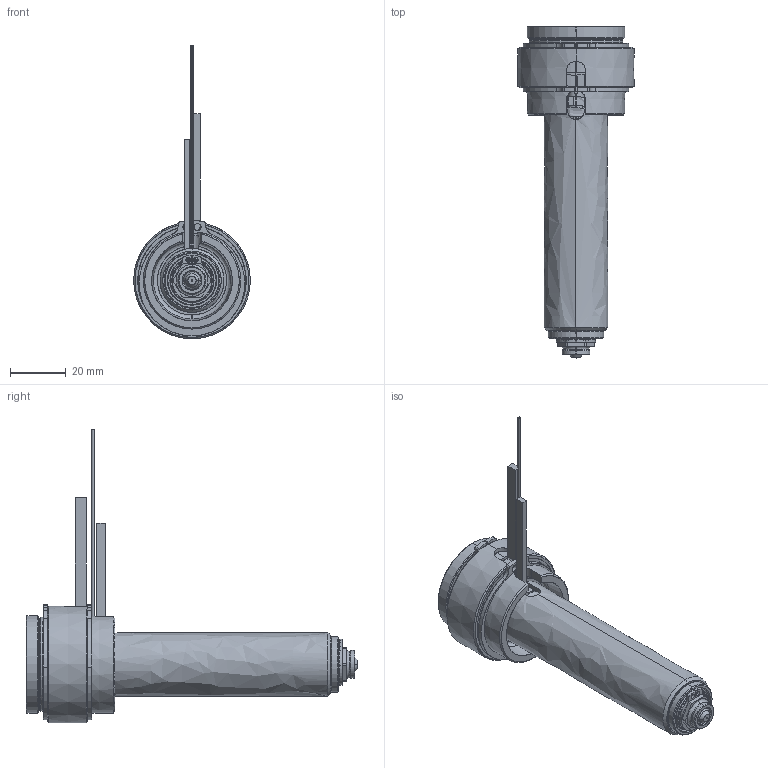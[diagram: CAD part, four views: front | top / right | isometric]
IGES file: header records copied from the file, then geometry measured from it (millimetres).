
Start section: SolidWorks IGES file using analytic representation for surfaces
Global section: file name: C:\Documents and Settings\ws-20\Desktop\TEM\UGER3552-S-A-0 [Øb-0.50  ØC-6.0].IGS; native system: SolidWorks 2012; preprocessor: SolidWorks 2012; author: ws-20; date: 120410.094520; units: millimetre
Bounding box: 42 x 119.4 x 105.6 mm (x, y, z)
Surface area: 38044.5 mm2 (no closed solid volume)
Topology: 0 solids, 0 shells, 206 faces, 3592 edges, 3592 vertices
Faces by surface type: revolution 132, bspline 74
